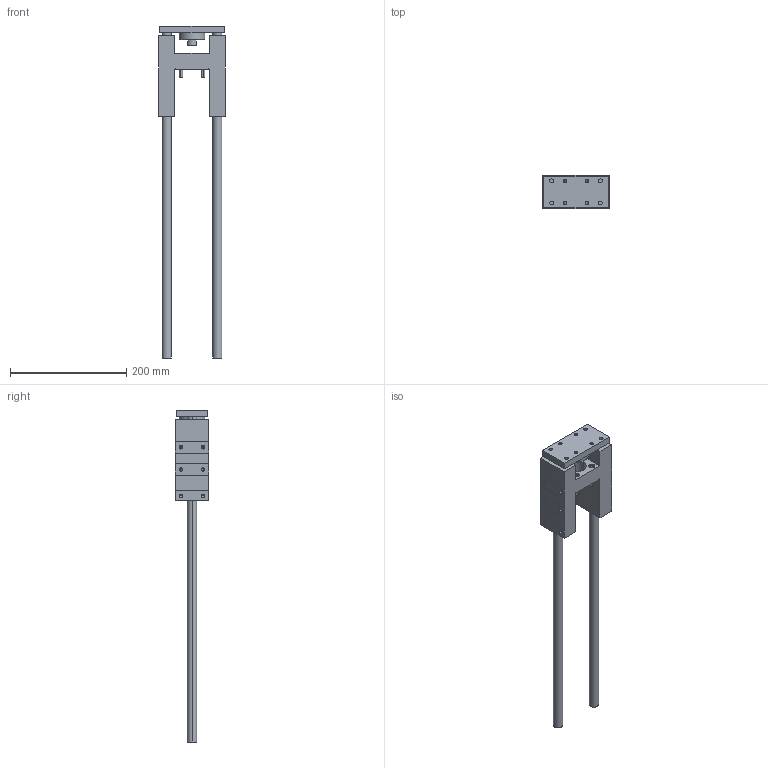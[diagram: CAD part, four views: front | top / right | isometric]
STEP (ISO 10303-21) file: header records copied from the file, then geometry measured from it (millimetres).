
FILE_DESCRIPTION (( 'STEP AP203' ), '1' );
FILE_NAME ('GB40-400.STEP', '2020-04-24T11:22:48', ( '' ), ( '' ), 'SwSTEP 2.0', 'SolidWorks 2019', '' );
FILE_SCHEMA (( 'CONFIG_CONTROL_DESIGN' ));
Length unit declared in the file: millimetre
Products named in the file (1): GB40-400
Bounding box: 115 x 58 x 570 mm (x, y, z)
Volume: 772459.6 mm3; surface area: 162685.3 mm2
Topology: 6 solids, 6 shells, 357 faces, 802 edges, 456 vertices
Faces by surface type: cone 142, plane 113, cylinder 102
Entity records: 10283 total; most frequent: CARTESIAN_POINT 2222, DIRECTION 1796, ORIENTED_EDGE 1532, EDGE_CURVE 766, AXIS2_PLACEMENT_3D 700, VERTEX_POINT 456, EDGE_LOOP 422, LINE 396
